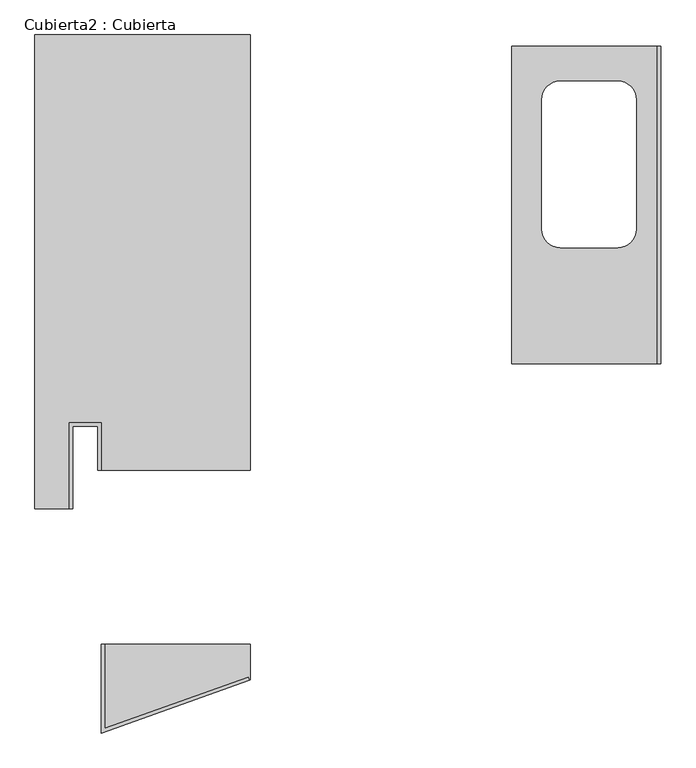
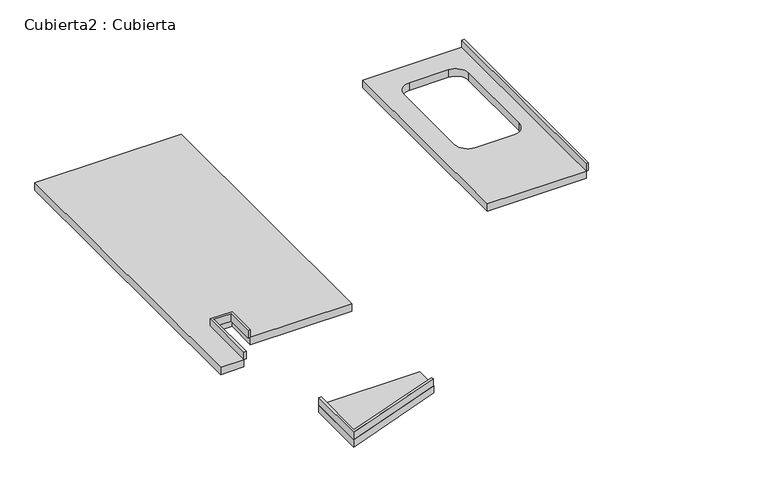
"""IFC4 building model written with IfcOpenShell, lengths in millimetres: furniture geometry, Cubierta2 : Cubierta."""

from ifc_helpers import new_model, si_unit, frame, origin, place, context, project, spatial, polyline, circle_curve, outline, extrude, faceted_brep, source, transform, mapped, element, save
from ifc_brep_helpers import plane_surface, revolved_surface, advanced_brep


def cubierta2_cubierta_aadcaa71(model_context):
    return source(origin(), model_context, "Body", "SolidModel", [
        extrude(outline(polyline([(49584.5059119, 27145.7129416), (49599.5059119, 27145.7129416), (49599.5059119, 26779.1989241), (50225.3734137, 27002.2290366), (50230.4085675, 26988.0993789), (49584.5059119, 26757.929668), (49584.5059119, 27145.7129416)])), frame((0.0, 0.0, 6900.0), z_axis=(0.0, 0.0, 1.0), x_axis=(1.0, 0.0, 0.0)), (0.0, 0.0, 1.0), 50.0),
        extrude(outline(polyline([(49584.5059119, 27905.7129416), (49569.5059119, 27905.7129416), (49569.5059119, 28096.0432167), (49459.5059119, 28096.0432167), (49459.5059119, 27737.2326537), (49444.5059119, 27737.2326537), (49444.5059119, 28111.0432167), (49584.5059119, 28111.0432167), (49584.5059119, 27905.7129416)])), frame((0.0, 0.0, 6900.0), z_axis=(0.0, 0.0, 1.0), x_axis=(1.0, 0.0, 0.0)), (0.0, 0.0, 1.0), 50.0),
        faceted_brep([(49294.5059119, 29804.010184, 6900.0), (49294.5059119, 27737.2326537, 6900.0), (49444.5059119, 27737.2326537, 6900.0), (49444.5059119, 28111.0432167, 6900.0), (49584.5059119, 28111.0432167, 6900.0), (49584.5059119, 27905.7129416, 6900.0), (50234.5059119, 27905.7129416, 6900.0), (50234.5059119, 29804.010184, 6900.0), (49294.5059119, 29804.010184, 6850.0), (50234.5059119, 29804.010184, 6850.0), (50234.5059119, 27905.7129416, 6850.0), (49584.5059119, 27905.7129416, 6850.0), (49584.5059119, 28111.0432167, 6850.0), (49444.5059119, 28111.0432167, 6850.0), (49444.5059119, 27737.2326537, 6850.0), (49294.5059119, 27737.2326537, 6850.0)], [[[0, 1, 2, 3, 4, 5, 6, 7]], [[8, 9, 10, 11, 12, 13, 14, 15]], [[1, 0, 8, 15]], [[7, 6, 10, 9]], [[0, 7, 9, 8]], [[2, 1, 15, 14]], [[3, 2, 14, 13]], [[4, 3, 13, 12]], [[5, 4, 12, 11]], [[6, 5, 11, 10]]]),
        advanced_brep(
        [(52009.4822189, 29754.010184, 6900.0), (51374.4822189, 29754.010184, 6900.0), (51374.4822189, 28368.8532187, 6900.0), (52009.4822189, 28368.8532187, 6900.0), (51586.9822189, 29602.8532187, 6900.0), (51836.9822189, 29602.8532187, 6900.0), (51917.9822189, 29521.8532187, 6900.0), (51917.9822189, 28956.8532187, 6900.0), (51836.9822189, 28875.8532187, 6900.0), (51586.9822189, 28875.8532187, 6900.0), (51505.9822189, 28956.8532187, 6900.0), (51505.9822189, 29521.8532187, 6900.0), (52009.4822189, 29754.010184, 6850.0), (52009.4822189, 28368.8532187, 6850.0), (51374.4822189, 28368.8532187, 6850.0), (51374.4822189, 29754.010184, 6850.0), (51586.9822189, 29602.8532187, 6850.0), (51505.9822189, 29521.8532187, 6850.0), (51505.9822189, 28956.8532187, 6850.0), (51586.9822189, 28875.8532187, 6850.0), (51836.9822189, 28875.8532187, 6850.0), (51917.9822189, 28956.8532187, 6850.0), (51917.9822189, 29521.8532187, 6850.0), (51836.9822189, 29602.8532187, 6850.0), (52009.4822189, 29754.010184, 6950.0), (52024.4822189, 29754.010184, 6950.0), (52024.4822189, 29754.010184, 6900.0), (52009.4822189, 28368.8532187, 6950.0), (52024.4822189, 28368.8532187, 6950.0), (52024.4822189, 28368.8532187, 6900.0)],
        [
            (0, 1),
            (1, 2),
            (2, 3),
            (3, 0),
            (4, 5),
            (5, 6, circle_curve(frame((51836.9822189, 29521.8532187, 6900.0), z_axis=(0.0, 0.0, -1.0), x_axis=(0.0, -1.0, 0.0)), 81.0)),
            (6, 7),
            (7, 8, circle_curve(frame((51836.9822189, 28956.8532187, 6900.0), z_axis=(0.0, 0.0, -1.0), x_axis=(0.0, -1.0, 0.0)), 81.0)),
            (8, 9),
            (9, 10, circle_curve(frame((51586.9822189, 28956.8532187, 6900.0), z_axis=(0.0, 0.0, -1.0), x_axis=(0.0, -1.0, 0.0)), 81.0)),
            (10, 11),
            (11, 4, circle_curve(frame((51586.9822189, 29521.8532187, 6900.0), z_axis=(0.0, 0.0, -1.0), x_axis=(0.0, -1.0, 0.0)), 81.0)),
            (12, 13),
            (13, 14),
            (14, 15),
            (15, 12),
            (16, 17, circle_curve(frame((51586.9822189, 29521.8532187, 6850.0), z_axis=(0.0, 0.0, 1.0), x_axis=(0.0, -1.0, 0.0)), 81.0)),
            (17, 18),
            (18, 19, circle_curve(frame((51586.9822189, 28956.8532187, 6850.0), z_axis=(0.0, 0.0, 1.0), x_axis=(0.0, -1.0, 0.0)), 81.0)),
            (19, 20),
            (20, 21, circle_curve(frame((51836.9822189, 28956.8532187, 6850.0), z_axis=(0.0, 0.0, 1.0), x_axis=(0.0, -1.0, 0.0)), 81.0)),
            (21, 22),
            (22, 23, circle_curve(frame((51836.9822189, 29521.8532187, 6850.0), z_axis=(0.0, 0.0, 1.0), x_axis=(0.0, -1.0, 0.0)), 81.0)),
            (23, 16),
            (24, 25),
            (25, 26),
            (26, 0),
            (0, 24),
            (24, 27),
            (27, 28),
            (28, 25),
            (28, 29),
            (29, 26),
            (29, 3),
            (3, 0),
            (3, 27),
            (0, 12),
            (15, 1),
            (14, 2),
            (13, 3),
            (4, 16),
            (23, 5),
            (22, 6),
            (21, 7),
            (20, 8),
            (19, 9),
            (18, 10),
            (17, 11),
        ],
        [
            plane_surface(frame((49294.5059119, 28752.7644803, 6900.0), z_axis=(0.0, 0.0, 1.0), x_axis=(0.0, -1.0, 0.0))),
            plane_surface(frame((49294.5059119, 28752.7644803, 6850.0), z_axis=(0.0, 0.0, -1.0), x_axis=(0.0, 1.0, 0.0))),
            plane_surface(frame((52009.4822189, 29754.010184, 6000.0), z_axis=(0.0, 1.0, 0.0), x_axis=(0.0, 0.0, 1.0))),
            plane_surface(frame((52009.4822189, 29754.010184, 6950.0), z_axis=(0.0, 0.0, 1.0), x_axis=(0.0, -1.0, 0.0))),
            plane_surface(frame((52024.4822189, 29754.010184, 6950.0), z_axis=(1.0, 0.0, 0.0), x_axis=(0.0, -1.0, 0.0))),
            plane_surface(frame((52024.4822189, 29754.010184, 6900.0), z_axis=(0.0, 0.0, -1.0), x_axis=(0.0, -1.0, 0.0))),
            plane_surface(frame((52009.4822189, 29754.010184, 6900.0), z_axis=(-1.0, 0.0, 0.0), x_axis=(0.0, -1.0, 0.0))),
            plane_surface(frame((52009.4822189, 28368.8532187, 6000.0), z_axis=(0.0, -1.0, 0.0), x_axis=(0.0, 0.0, 1.0))),
            plane_surface(frame((52009.4822189, 29754.010184, 6900.0), z_axis=(0.0, 1.0, 0.0), x_axis=(0.0, 0.0, -1.0))),
            plane_surface(frame((51374.4822189, 29754.010184, 6900.0), z_axis=(-1.0, 0.0, 0.0), x_axis=(0.0, 0.0, -1.0))),
            plane_surface(frame((51374.4822189, 28368.8532187, 6900.0), z_axis=(0.0, -1.0, 0.0), x_axis=(0.0, 0.0, -1.0))),
            plane_surface(frame((52009.4822189, 28368.8532187, 6900.0), z_axis=(1.0, 0.0, 0.0), x_axis=(0.0, 0.0, -1.0))),
            plane_surface(frame((51586.9822189, 29602.8532187, 6900.0), z_axis=(0.0, -1.0, 0.0), x_axis=(0.0, 0.0, -1.0))),
            revolved_surface(polyline([(51836.9822189, 29440.8532187, 6850.0), (51836.9822189, 29440.8532187, 6900.0)]), (51836.9822189, 29521.8532187, 6000.0), (0.0, 0.0, -1.0)),
            plane_surface(frame((51917.9822189, 29521.8532187, 6900.0), z_axis=(-1.0, 0.0, 0.0), x_axis=(0.0, 0.0, -1.0))),
            revolved_surface(polyline([(51836.9822189, 28875.8532187, 6850.0), (51836.9822189, 28875.8532187, 6900.0)]), (51836.9822189, 28956.8532187, 6000.0), (0.0, 0.0, -1.0)),
            plane_surface(frame((51836.9822189, 28875.8532187, 6900.0), z_axis=(0.0, 1.0, 0.0), x_axis=(0.0, 0.0, -1.0))),
            revolved_surface(polyline([(51586.9822189, 28875.8532187, 6850.0), (51586.9822189, 28875.8532187, 6900.0)]), (51586.9822189, 28956.8532187, 6000.0), (0.0, 0.0, -1.0)),
            plane_surface(frame((51505.9822189, 28956.8532187, 6900.0), z_axis=(1.0, 0.0, 0.0), x_axis=(0.0, 0.0, -1.0))),
            revolved_surface(polyline([(51586.9822189, 29440.8532187, 6850.0), (51586.9822189, 29440.8532187, 6900.0)]), (51586.9822189, 29521.8532187, 6000.0), (0.0, 0.0, -1.0)),
        ],
        [
            (0, [[1, 2, 3, 4], [5, 6, 7, 8, 9, 10, 11, 12]]),
            (1, [[13, 14, 15, 16], [17, 18, 19, 20, 21, 22, 23, 24]]),
            (2, [[25, 26, 27, 28]]),
            (3, [[-25, 29, 30, 31]]),
            (4, [[-26, -31, 32, 33]]),
            (5, [[-27, -33, 34, 35]]),
            (6, [[-28, -4, 36, -29]]),
            (7, [[-30, -36, -34, -32]]),
            (8, [[-1, 37, -16, 38]]),
            (9, [[-2, -38, -15, 39]]),
            (10, [[-3, -39, -14, 40]]),
            (11, [[-13, -37, -35, -40]]),
            (12, [[-5, 41, -24, 42]]),
            (13, [[-6, -42, -23, 43]]),
            (14, [[-7, -43, -22, 44]]),
            (15, [[-8, -44, -21, 45]]),
            (16, [[-9, -45, -20, 46]]),
            (17, [[-10, -46, -19, 47]]),
            (18, [[-11, -47, -18, 48]]),
            (19, [[-12, -48, -17, -41]]),
        ],
    ),
        faceted_brep([(50234.5059119, 26989.5594822, 6900.0), (50234.5059119, 27145.7129416, 6900.0), (49584.5059119, 27145.7129416, 6900.0), (49584.5059119, 26757.929668, 6900.0), (50234.5059119, 26989.5594822, 6850.0), (49584.5059119, 26757.929668, 6850.0), (49584.5059119, 27145.7129416, 6850.0), (50234.5059119, 27145.7129416, 6850.0)], [[[0, 1, 2, 3]], [[4, 5, 6, 7]], [[0, 3, 5, 4]], [[1, 0, 4, 7]], [[2, 1, 7, 6]], [[3, 2, 6, 5]]]),
    ])


if __name__ == "__main__":
    model = new_model("IFC4")
    model_context = context("Model", 3, world=origin())
    ifc_project = project(units=[si_unit("LENGTHUNIT", "METRE", prefix="MILLI")], contexts=[model_context])
    site = spatial("IfcSite", under=ifc_project)
    building = spatial("IfcBuilding", under=site)
    placement = place(None, origin())
    cubierta2_cubierta_shape = cubierta2_cubierta_aadcaa71(model_context)
    element("IfcFurniture", 1, ObjectType="Cubierta2 : Cubierta", at=placement, inside=building, context=model_context, shape_type="MappedRepresentation", body=[
        mapped(cubierta2_cubierta_shape, transform((0.0, 0.0, 0.0), x_axis=(1.0, 0.0, 0.0), y_axis=(0.0, 1.0, 0.0), z_axis=(0.0, 0.0, 1.0))),
    ])
    save(model, "model.ifc")
